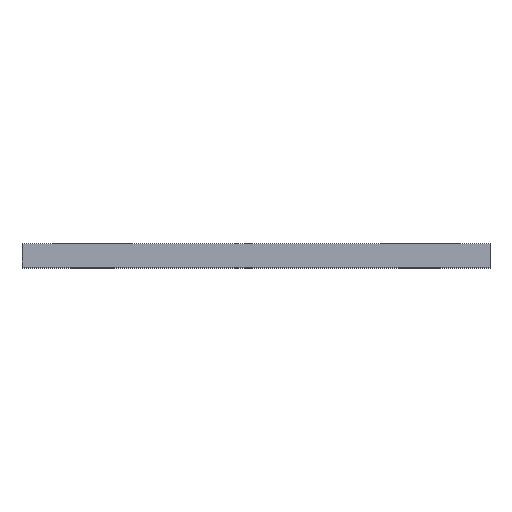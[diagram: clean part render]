
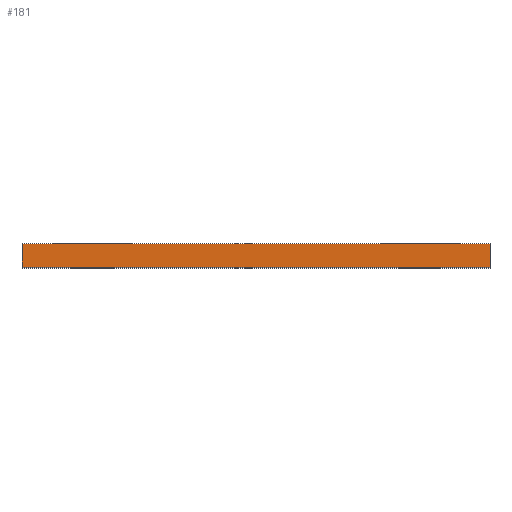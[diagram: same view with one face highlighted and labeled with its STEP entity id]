
A CAD part, top view. The second image highlights one B-rep face of the part: STEP entity #181.
In plain terms, the highlighted face is a extrusion surface.
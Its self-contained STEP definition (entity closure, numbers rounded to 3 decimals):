
#142=CARTESIAN_POINT('Control Point',(-100.,0.,0.)) ;
#143=CARTESIAN_POINT('Control Point',(0.,0.,0.)) ;
#147=CARTESIAN_POINT('Line Origine',(-50.,0.,0.)) ;
#151=CARTESIAN_POINT('Vertex',(-100.,0.,0.)) ;
#153=CARTESIAN_POINT('Vertex',(0.,0.,0.)) ;
#156=CARTESIAN_POINT('Line Origine',(0.,2.5,0.)) ;
#160=CARTESIAN_POINT('Vertex',(0.,5.,0.)) ;
#163=CARTESIAN_POINT('Line Origine',(-50.,5.,0.)) ;
#167=CARTESIAN_POINT('Vertex',(-100.,5.,0.)) ;
#170=CARTESIAN_POINT('Line Origine',(-100.,2.5,0.)) ;
#144=DIRECTION('Vector Direction',(0.,1.,0.)) ;
#148=DIRECTION('Vector Direction',(1.,0.,0.)) ;
#157=DIRECTION('Vector Direction',(0.,1.,0.)) ;
#164=DIRECTION('Vector Direction',(1.,0.,0.)) ;
#171=DIRECTION('Vector Direction',(0.,1.,0.)) ;
#176=ORIENTED_EDGE('',*,*,#155,.T.) ;
#177=ORIENTED_EDGE('',*,*,#162,.T.) ;
#178=ORIENTED_EDGE('',*,*,#169,.T.) ;
#179=ORIENTED_EDGE('',*,*,#174,.T.) ;
#145=VECTOR('Extrusion Surface Vector',#144,1.) ;
#149=VECTOR('Line Direction',#148,1.) ;
#158=VECTOR('Line Direction',#157,1.) ;
#165=VECTOR('Line Direction',#164,1.) ;
#172=VECTOR('Line Direction',#171,1.) ;
#181=ADVANCED_FACE('Superficie.3',(#180),#146,.T.) ;
#141=B_SPLINE_CURVE_WITH_KNOTS('',1,(#142,#143),.UNSPECIFIED.,.F.,.U.,(2,2),(-50.,50.),.UNSPECIFIED.) ;
#155=EDGE_CURVE('',#152,#154,#150,.T.) ;
#162=EDGE_CURVE('',#154,#161,#159,.T.) ;
#169=EDGE_CURVE('',#161,#168,#166,.F.) ;
#174=EDGE_CURVE('',#168,#152,#173,.F.) ;
#175=EDGE_LOOP('',(#176,#177,#178,#179)) ;
#180=FACE_OUTER_BOUND('',#175,.T.) ;
#150=LINE('Line',#147,#149) ;
#159=LINE('Line',#156,#158) ;
#166=LINE('Line',#163,#165) ;
#173=LINE('Line',#170,#172) ;
#146=SURFACE_OF_LINEAR_EXTRUSION('generated tabulated cylinder',#141,#145) ;
#152=VERTEX_POINT('',#151) ;
#154=VERTEX_POINT('',#153) ;
#161=VERTEX_POINT('',#160) ;
#168=VERTEX_POINT('',#167) ;
